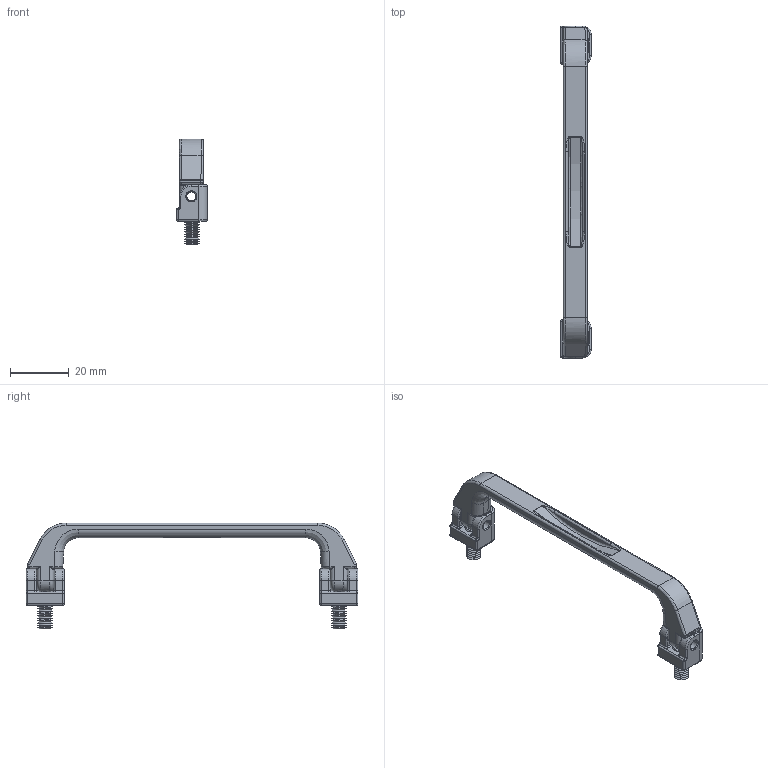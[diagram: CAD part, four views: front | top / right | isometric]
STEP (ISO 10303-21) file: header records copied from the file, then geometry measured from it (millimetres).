
FILE_DESCRIPTION (( 'STEP AP214' ), '1' );
FILE_NAME ('A80 KA-280-4.STEP', '2017-03-30T01:59:52', ( '' ), ( '' ), 'SwSTEP 2.0', 'SolidWorks 2011', '' );
FILE_SCHEMA (( 'AUTOMOTIVE_DESIGN' ));
Length unit declared in the file: millimetre
Products named in the file (1): A80 KA-280-4
Bounding box: 10.5 x 113 x 36 mm (x, y, z)
Volume: 8012 mm3; surface area: 6053.3 mm2
Topology: 1 solids, 1 shells, 451 faces, 1072 edges, 606 vertices
Faces by surface type: cylinder 151, bspline 88, cone 84, plane 80, torus 40, sphere 8
Entity records: 29230 total; most frequent: CARTESIAN_POINT 14552, ORIENTED_EDGE 2108, DIRECTION 1952, EDGE_CURVE 1054, AXIS2_PLACEMENT_3D 768, VERTEX_POINT 606, EDGE_LOOP 468, UNCERTAINTY_MEASURE_WITH_UNIT 454
